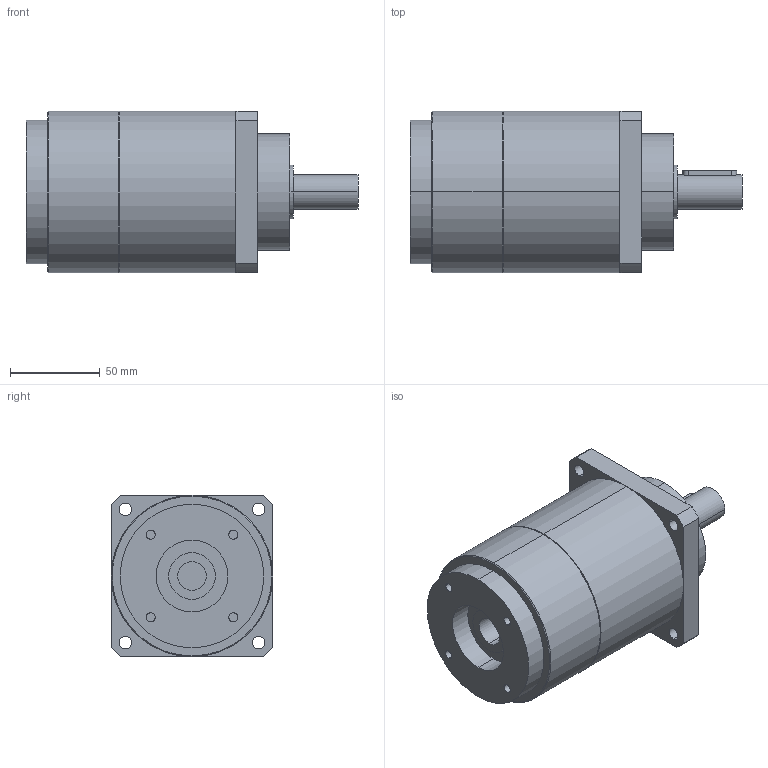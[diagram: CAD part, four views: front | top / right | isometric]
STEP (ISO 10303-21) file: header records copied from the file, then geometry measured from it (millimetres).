
FILE_DESCRIPTION(('CoCreate Modeling STEP Export'),'2;1');
FILE_NAME('GPT90_ig-9-12-16-20-25-28-35-40-50-70-100_19_B5T_16_P26.stp','2015-02-04T11:32:15',(''),(''),'CoCreate Modeling STEP processor for AP214 (Solid Model)','CoCreate Modeling 16.00C 25-Feb-2009 (C) Parametric Technology GmbH','');
FILE_SCHEMA(('AUTOMOTIVE_DESIGN { 1 0 10303 214 1 1 1 1 }'));
Length unit declared in the file: millimetre
Products named in the file (2): GPT90_ig-9-12-16-20-25-28-35-40-50-70-100_19_B5T_16_P26
Assembly tree (1 placements, depth 2):
  GPT90_ig-9-12-16-20-25-28-35-40-50-70-100_19_B5T_16_P26
    GPT90_ig-9-12-16-20-25-28-35-40-50-70-100_19_B5T_16_P26
Bounding box: 185 x 90 x 90 mm (x, y, z)
Volume: 872821.2 mm3; surface area: 64602.2 mm2
Topology: 1 solids, 1 shells, 72 faces, 182 edges, 125 vertices
Faces by surface type: cylinder 42, plane 26, cone 4
Entity records: 2313 total; most frequent: CARTESIAN_POINT 692, ORIENTED_EDGE 364, DIRECTION 272, EDGE_CURVE 182, VERTEX_POINT 125, AXIS2_PLACEMENT_3D 102, EDGE_LOOP 93, FACE_OUTER_BOUND 72
